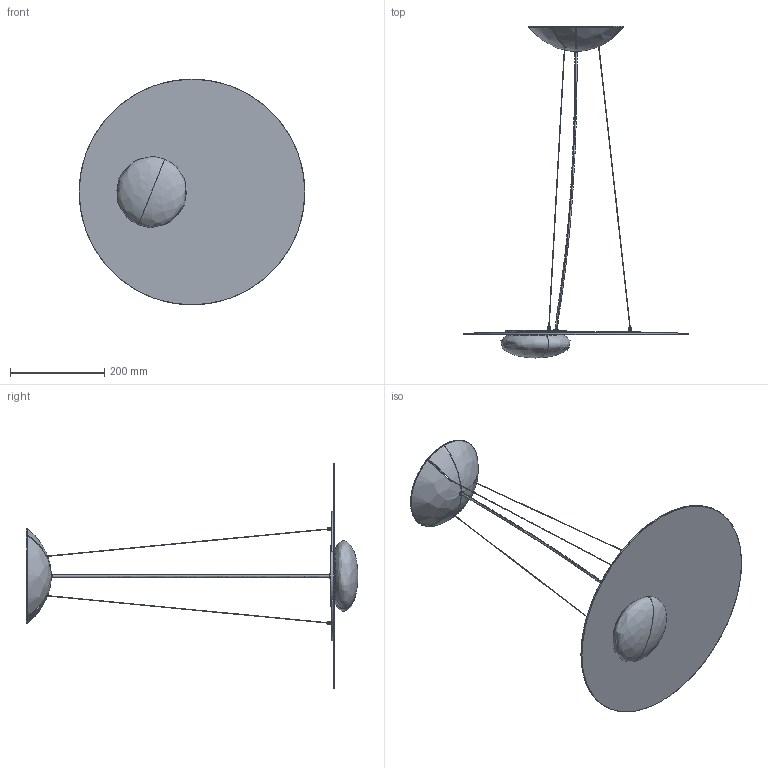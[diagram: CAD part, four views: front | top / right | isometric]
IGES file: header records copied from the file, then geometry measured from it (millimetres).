
Start section: SolidWorks IGES file using analytic representation for surfaces
Global section: file name: D:\OneDrive\Projects\AXO069 KWIC\DRAW\3D\STEP-IGES\KWIC_Suspension_480.IGS; native system: SolidWorks 2019; preprocessor: SolidWorks 2019; author: tecnico8; date: 190725.153310; units: millimetre
Bounding box: 480 x 706 x 480 mm (x, y, z)
Surface area: 707489.5 mm2 (no closed solid volume)
Topology: 0 solids, 0 shells, 639 faces, 8366 edges, 8364 vertices
Faces by surface type: revolution 352, bspline 287
